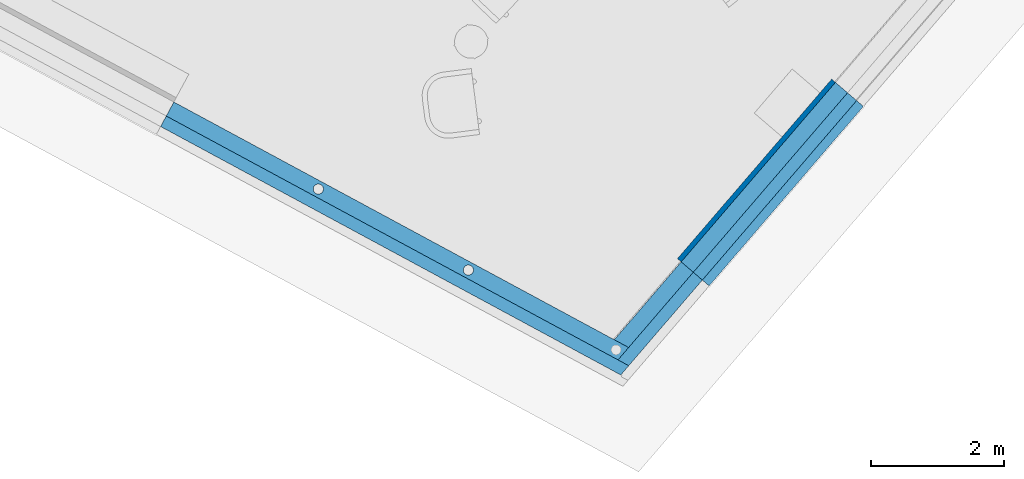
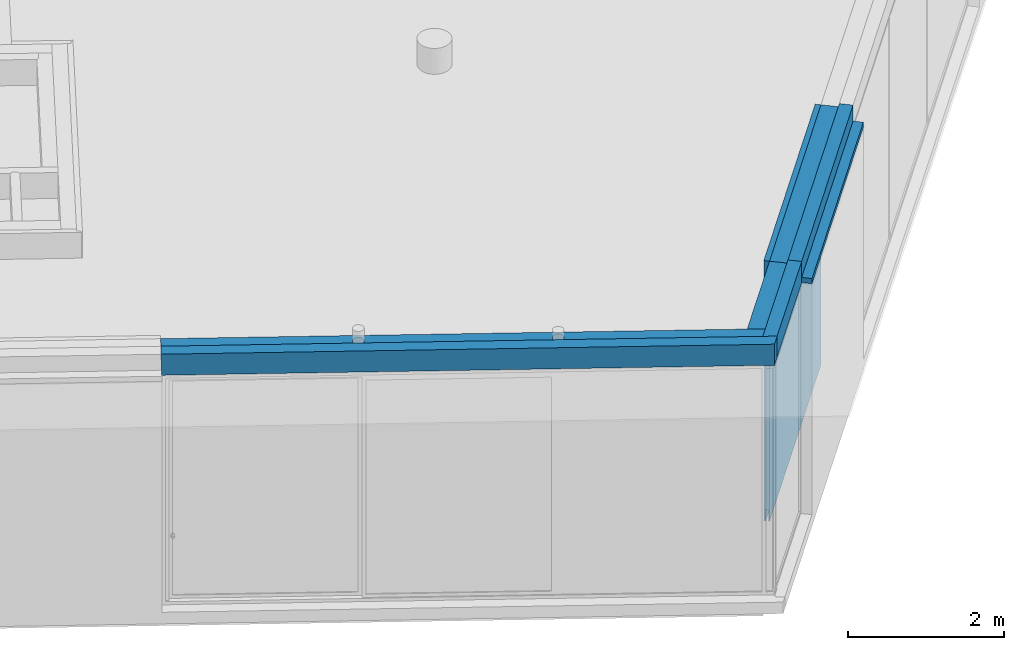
# One storey, part 8 of 52: 4 walls.
"""IFC2X3 building model written with IfcOpenShell, lengths in metres."""

import ifcopenshell
import ifcopenshell.guid

model = None  # the IFC model being written
_history = None  # IfcOwnerHistory: only IFC2X3 demands one
_inside = {}  # id of a spatial element -> (the spatial element, [elements in it])
_under = {}  # id of a project, library or spatial element -> (it, [spatial elements below it])
_declared = {}  # id of a project -> (the project, [libraries it declares])
_typed = {}  # id of a type object -> (the type object, [elements of that type])
_made_of = {}  # id of a material, layer set ... -> (it, [elements and type objects made of it])


def new_model(schema):
    """Start an empty IFC model of exactly this schema.

    Asked for "IFC4X3", IfcOpenShell would pick the latest addendum, in which some entities
    have other attributes; the version numbers below select the first issue.
    IFC2X3 requires an IfcOwnerHistory on every rooted entity: one is made here for all.
    """
    global model, _history
    if schema == "IFC4X3":
        model = ifcopenshell.file(schema_version=(4, 3, 0, 0))
    else:
        model = ifcopenshell.file(schema=schema)
    _inside.clear()
    _under.clear()
    _declared.clear()
    _typed.clear()
    _made_of.clear()
    _history = None
    if model.schema == "IFC2X3":
        org = make("IfcOrganization", Name="unknown")
        user = make(
            "IfcPersonAndOrganization",
            ThePerson=make("IfcPerson", FamilyName="unknown"),
            TheOrganization=org,
        )
        app = make(
            "IfcApplication",
            ApplicationDeveloper=org,
            Version="unknown",
            ApplicationFullName="unknown",
            ApplicationIdentifier="unknown",
        )
        _history = make(
            "IfcOwnerHistory",
            OwningUser=user,
            OwningApplication=app,
            ChangeAction="ADDED",
            CreationDate=0,
        )
    return model


def make(cls, **values):
    """One entity of the class cls with the attributes given. An attribute that is None is left unset."""
    return model.create_entity(
        cls, **{name: value for name, value in values.items() if value is not None}
    )


def entity(cls, *values):
    """Any entity or typed value of the class cls, its attributes in the order of the schema. None: left unset."""
    e = model.create_entity(cls)
    for i, value in enumerate(values):
        if value is not None:
            e[i] = value
    return e


def rooted(cls, **values):
    """An entity with a GlobalId (a new one), such as an element, a storey or a relation."""
    return make(cls, GlobalId=ifcopenshell.guid.new(), OwnerHistory=_history, **values)


def si_unit(unit_type, name, prefix=None):
    """IfcSIUnit, for example si_unit("LENGTHUNIT", "METRE", prefix="MILLI")."""
    return make("IfcSIUnit", UnitType=unit_type, Prefix=prefix, Name=name)


def converted_unit(unit_type, name, factor, base, dimensions=None, offset=None):
    """IfcConversionBasedUnit, such as the inch: factor (a typed value) times the base unit."""
    return make(
        "IfcConversionBasedUnit"
        if offset is None
        else "IfcConversionBasedUnitWithOffset",
        ConversionOffset=offset,
        Dimensions=None
        if dimensions is None
        else entity("IfcDimensionalExponents", *dimensions),
        UnitType=unit_type,
        Name=name,
        ConversionFactor=make(
            "IfcMeasureWithUnit", ValueComponent=factor, UnitComponent=base
        ),
    )


def derived_unit(unit_type, elements):
    """IfcDerivedUnit: a product of units, each with its exponent."""
    return make(
        "IfcDerivedUnit",
        Elements=[
            make("IfcDerivedUnitElement", Unit=unit, Exponent=power)
            for unit, power in elements
        ],
        UnitType=unit_type,
    )


def money_unit(currency):
    """IfcMonetaryUnit."""
    return make("IfcMonetaryUnit", Currency=currency)


def assignment(units):
    """IfcUnitAssignment: the units of a project."""
    return None if units is None else make("IfcUnitAssignment", Units=units)


def point(xyz):
    """IfcCartesianPoint."""
    return None if xyz is None else make("IfcCartesianPoint", Coordinates=xyz)


def direction(xyz):
    """IfcDirection."""
    return None if xyz is None else make("IfcDirection", DirectionRatios=xyz)


def frame(location, z_axis=None, x_axis=None):
    """IfcAxis2Placement3D, a coordinate frame: its origin and axes. An axis left out is left unset."""
    return make(
        "IfcAxis2Placement3D",
        Location=point(location),
        Axis=direction(z_axis),
        RefDirection=direction(x_axis),
    )


def origin_with_axes():
    """The frame at (0, 0, 0) with the z axis (0, 0, 1) and the x axis (1, 0, 0) written out."""
    return frame((0.0, 0.0, 0.0), z_axis=(0.0, 0.0, 1.0), x_axis=(1.0, 0.0, 0.0))


def place(relative_to, where):
    """IfcLocalPlacement: puts the frame where relative to a parent placement (None: the world)."""
    return make(
        "IfcLocalPlacement", PlacementRelTo=relative_to, RelativePlacement=where
    )


def context(
    kind, dimensions, precision=None, world=None, true_north=None, identifier=None
):
    """IfcGeometricRepresentationContext, for example the 3D "Model" context."""
    return make(
        "IfcGeometricRepresentationContext",
        ContextIdentifier=identifier,
        ContextType=kind,
        CoordinateSpaceDimension=dimensions,
        Precision=precision,
        WorldCoordinateSystem=world,
        TrueNorth=true_north,
    )


def subcontext(parent, identifier, kind, view, scale=None):
    """IfcGeometricRepresentationSubContext, for example "Body" below "Model"."""
    return make(
        "IfcGeometricRepresentationSubContext",
        ContextIdentifier=identifier,
        ContextType=kind,
        ParentContext=parent,
        TargetScale=scale,
        TargetView=view,
    )


def project(units=None, contexts=None):
    """IfcProject with its units and contexts."""
    return rooted(
        "IfcProject",
        Name="project",
        RepresentationContexts=contexts,
        UnitsInContext=assignment(units),
    )


def spatial(cls, under=None, at=None, **own):
    """A site, building, storey or space (cls), placed at a placement, below another one or the project."""
    s = rooted(cls, ObjectPlacement=at, **own)
    if under is not None:
        _under.setdefault(under.id(), (under, []))[1].append(s)
    return s


def faces_of(points, faces, orient=None, outer=None):
    """IfcFace entities. A face is a list of loops; a loop is a list of indices into points, from 0.

    orient and outer hold one flag for each loop. By default every Orientation is true, the
    first loop of a face is its IfcFaceOuterBound and the others are IfcFaceBound.
    """
    made = []
    for i, loops in enumerate(faces):
        bounds = []
        for j, loop in enumerate(loops):
            is_outer = j == 0 if outer is None else outer[i][j]
            bounds.append(
                make(
                    "IfcFaceOuterBound" if is_outer else "IfcFaceBound",
                    Bound=make("IfcPolyLoop", Polygon=[points[k] for k in loop]),
                    Orientation=True if orient is None else orient[i][j],
                )
            )
        made.append(make("IfcFace", Bounds=bounds))
    return made


def faceted_brep(points, faces, orient=None, outer=None, voids=None):
    """IfcFacetedBrep: a solid bounded by flat faces; with voids (closed shells), ...WithVoids."""
    shared = [point(p) for p in points]
    hull = make("IfcClosedShell", CfsFaces=faces_of(shared, faces, orient, outer))
    if voids is None:
        return make("IfcFacetedBrep", Outer=hull)
    return make(
        "IfcFacetedBrepWithVoids",
        Outer=hull,
        Voids=[
            make(cls, CfsFaces=faces_of(shared, fs, o, b)) for cls, fs, o, b in voids
        ],
    )


def shape(context_of_items, identifier, shape_type, items):
    """IfcShapeRepresentation: the items that make up one representation, for example the "Body"."""
    return make(
        "IfcShapeRepresentation",
        ContextOfItems=context_of_items,
        RepresentationIdentifier=identifier,
        RepresentationType=shape_type,
        Items=items,
    )


def material(Name=None, Category=None):
    """IfcMaterial."""
    return make("IfcMaterial", Name=Name, Category=Category)


def material_list(materials):
    """IfcMaterialList."""
    return make("IfcMaterialList", Materials=materials)


def made_of(thing, what):
    """Note that an element or type object is made of a material, layer set ...; save() writes the relation."""
    if what is not None:
        _made_of.setdefault(what.id(), (what, []))[1].append(thing)
    return thing


def type_object(cls, material=None, **own):
    """A type object (cls), such as IfcWallType, which elements share."""
    return made_of(rooted(cls, **own), material)


def element(
    cls,
    number,
    at=None,
    inside=None,
    cuts=None,
    type_object=None,
    material=None,
    context=None,
    identifier="Body",
    shape_type=None,
    held_by="IfcProductDefinitionShape",
    body=None,
    shapes=None,
    **own,
):
    """One element of the class cls, such as IfcWall. Its Tag is "e" and its number.

    at: its placement. inside: the storey or other place that contains it. cuts: it is an
    opening in that element (IfcRelVoidsElement). A single representation is given by context,
    identifier, shape_type and body (its items); several are given by shapes. held_by: the class
    of the entity that holds the representations. save() writes the other relations.
    """
    e = rooted(cls, Tag="e%d" % number, ObjectPlacement=at, **own)
    if body is not None:
        shapes = [shape(context, identifier, shape_type, body)]
    if shapes is not None:
        e.Representation = make(held_by, Representations=shapes)
    if inside is not None:
        _inside.setdefault(inside.id(), (inside, []))[1].append(e)
    if cuts is not None:
        rooted(
            "IfcRelVoidsElement", RelatingBuildingElement=cuts, RelatedOpeningElement=e
        )
    if type_object is not None:
        _typed.setdefault(type_object.id(), (type_object, []))[1].append(e)
    return made_of(e, material)


def aggregate(whole, parts):
    """IfcRelAggregates: a whole, such as a stair, and the parts it consists of."""
    return rooted("IfcRelAggregates", RelatingObject=whole, RelatedObjects=parts)


def save(model, path):
    """Write the relations noted so far, then the file.

    IfcRelAggregates (storeys below a building ...), IfcRelContainedInSpatialStructure (elements
    in a storey), IfcRelDefinesByType, IfcRelAssociatesMaterial and IfcRelDeclares: one each for
    every whole, place, type object, material and project.
    """
    for whole, parts in _under.values():
        aggregate(whole, parts)
    for where, things in _inside.values():
        rooted(
            "IfcRelContainedInSpatialStructure",
            RelatedElements=things,
            RelatingStructure=where,
        )
    for kind, things in _typed.values():
        rooted("IfcRelDefinesByType", RelatedObjects=things, RelatingType=kind)
    for what, things in _made_of.values():
        rooted("IfcRelAssociatesMaterial", RelatedObjects=things, RelatingMaterial=what)
    for by, libraries in _declared.values():
        rooted("IfcRelDeclares", RelatingContext=by, RelatedDefinitions=libraries)
    model.write(path)


model = new_model("IFC2X3")

# Units and contexts
model_context = context("Model", 3, precision=1e-05, world=origin_with_axes(), true_north=direction((0.0, 1.0)))
body_context = subcontext(model_context, "Body", "Model", "MODEL_VIEW")
ifc_project = project(units=[si_unit("LENGTHUNIT", "METRE"), si_unit("AREAUNIT", "SQUARE_METRE"), si_unit("VOLUMEUNIT", "CUBIC_METRE"), converted_unit("PLANEANGLEUNIT", "DEGREE", entity("IfcPlaneAngleMeasure", 0.0174532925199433), si_unit("PLANEANGLEUNIT", "RADIAN"), dimensions=[0, 0, 0, 0, 0, 0, 0]), money_unit("EUR"), converted_unit("TIMEUNIT", "Year", entity("IfcTimeMeasure", 31556926.0), si_unit("TIMEUNIT", "SECOND"), dimensions=[0, 0, 1, 0, 0, 0, 0]), si_unit("MASSUNIT", "GRAM", prefix="KILO"), si_unit("THERMODYNAMICTEMPERATUREUNIT", "DEGREE_CELSIUS"), si_unit("LUMINOUSINTENSITYUNIT", "LUMEN"), si_unit("ENERGYUNIT", "JOULE", prefix="MEGA"), derived_unit("THERMALCONDUCTANCEUNIT", [(si_unit("POWERUNIT", "WATT"), 1), (si_unit("LENGTHUNIT", "METRE"), -1), (si_unit("THERMODYNAMICTEMPERATUREUNIT", "KELVIN"), -1)]), derived_unit("SPECIFICHEATCAPACITYUNIT", [(si_unit("ENERGYUNIT", "JOULE"), 1), (si_unit("MASSUNIT", "GRAM", prefix="KILO"), -1), (si_unit("THERMODYNAMICTEMPERATUREUNIT", "KELVIN"), -1)]), derived_unit("MASSDENSITYUNIT", [(si_unit("MASSUNIT", "GRAM", prefix="KILO"), 1), (si_unit("VOLUMEUNIT", "CUBIC_METRE"), -1)])], contexts=[model_context])

# Site, building, storey
site_placement = place(None, frame((-3.949935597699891, 1.740105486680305, 0.0), z_axis=(0.0, 0.0, 1.0), x_axis=(0.8799804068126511, -0.475009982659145, 0.0)))
site = spatial("IfcSite", under=ifc_project, at=site_placement, Name="Gelände", CompositionType="ELEMENT")
building_placement = place(site_placement, origin_with_axes())
building = spatial("IfcBuilding", under=site, at=building_placement, Name="Gebäude", CompositionType="ELEMENT")
storey_placement = place(building_placement, origin_with_axes())
storey = spatial("IfcBuildingStorey", under=building, at=storey_placement, Name="Erdgeschoss", CompositionType="ELEMENT", Elevation=0.0)

# Walls
ifc_material_1 = material(Name="_SIWH - Beton, Stahlbeton")
ifc_material_2 = material(Name="_SIWH - Dämmung, weich Mineralwolle")
ifc_material_list_1 = material_list([ifc_material_1, ifc_material_2])
wall_type_1 = type_object("IfcWallType", Name="_SIWH - WA | Stb. 24+WD 18 | 42cm 420", PredefinedType="NOTDEFINED")
wall_1_placement = place(storey_placement, frame((19.13486084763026, 0.2249891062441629, 3.619999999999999), z_axis=(0.0, 0.0, 1.0), x_axis=(0.9999999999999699, -2.452875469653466e-07, 0.0)))
element("IfcWall", 1, at=wall_1_placement, inside=storey, type_object=wall_type_1, material=ifc_material_list_1, Name="A-Wand011", context=body_context, shape_type="Brep", body=[
    faceted_brep([(7.727015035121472, 0.0, 0.0), (0.0, 0.0, 0.0), (0.0, 0.2400000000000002, 0.0), (7.779432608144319, 0.2400000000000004, 0.0), (7.691878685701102, 0.07534120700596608, 0.0), (7.702673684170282, 0.09652759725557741, 0.0), (7.7063933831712, 0.12001288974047, 0.0), (7.702673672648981, 0.143498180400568, 0.0), (7.691878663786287, 0.1646845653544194, 0.0), (7.675065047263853, 0.1814981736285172, 0.0), (7.653878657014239, 0.1922931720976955, 0.0), (7.630393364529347, 0.1960128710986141, 0.0), (7.606908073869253, 0.1922931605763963, 0.0), (7.585721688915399, 0.181498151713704, 0.0), (7.5689080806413, 0.1646845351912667, 0.0), (7.55811308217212, 0.1434981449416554, 0.0), (7.554393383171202, 0.1200128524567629, 0.0), (7.558113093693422, 0.09652756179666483, 0.0), (7.568908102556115, 0.0753411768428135, 0.0), (7.585721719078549, 0.05852756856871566, 0.0), (7.606908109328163, 0.04773257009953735, 0.0), (7.630393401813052, 0.04401287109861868, 0.0), (7.65387869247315, 0.04773258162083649, 0.0), (7.675065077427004, 0.05852759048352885, 0.0), (2.598152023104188, 0.07533995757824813, 0.0), (2.608947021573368, 0.09652634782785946, 0.0), (2.612666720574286, 0.120011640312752, 0.0), (2.608947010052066, 0.14349693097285, 0.0), (2.598152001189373, 0.1646833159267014, 0.0), (2.581338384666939, 0.1814969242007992, 0.0), (2.560151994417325, 0.1922919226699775, 0.0), (2.536666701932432, 0.1960116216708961, 0.0), (2.513181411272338, 0.1922919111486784, 0.0), (2.491995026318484, 0.181496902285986, 0.0), (2.475181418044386, 0.1646832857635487, 0.0), (2.464386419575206, 0.1434968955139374, 0.0), (2.460666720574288, 0.1200116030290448, 0.0), (2.464386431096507, 0.09652631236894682, 0.0), (2.475181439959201, 0.07533992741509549, 0.0), (2.491995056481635, 0.05852631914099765, 0.0), (2.513181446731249, 0.0477313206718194, 0.0), (2.536666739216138, 0.04401162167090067, 0.0), (2.560152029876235, 0.04773133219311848, 0.0), (2.581338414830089, 0.05852634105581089, 0.0), (5.164818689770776, 0.07534058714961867, 0.0), (5.175613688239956, 0.09652697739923, 0.0), (5.179333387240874, 0.1200122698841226, 0.0), (5.175613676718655, 0.1434975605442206, 0.0), (5.164818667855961, 0.164683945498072, 0.0), (5.148005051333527, 0.1814975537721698, 0.0), (5.126818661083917, 0.1922925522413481, 0.0), (5.103333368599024, 0.1960122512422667, 0.0), (5.079848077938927, 0.1922925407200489, 0.0), (5.058661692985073, 0.1814975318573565, 0.0), (5.041848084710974, 0.1646839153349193, 0.0), (5.031053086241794, 0.1434975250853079, 0.0), (5.027333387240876, 0.1200122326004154, 0.0), (5.031053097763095, 0.09652694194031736, 0.0), (5.041848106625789, 0.07534055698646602, 0.0), (5.058661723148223, 0.05852694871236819, 0.0), (5.079848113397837, 0.04773195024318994, 0.0), (5.103333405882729, 0.04401225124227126, 0.0), (5.126818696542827, 0.04773196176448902, 0.0), (5.148005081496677, 0.05852697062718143, 0.0), (7.727010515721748, 9.76583452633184e-07, 0.2800000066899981), (0.0, 0.0, 0.2800000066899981), (0.0, 0.240000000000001, 0.2800000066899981), (7.779428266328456, 0.240000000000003, 0.2800000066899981), (7.691878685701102, 0.07534120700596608, 0.1300000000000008), (7.702673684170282, 0.09652759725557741, 0.1300000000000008), (7.7063933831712, 0.12001288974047, 0.1300000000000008), (7.702673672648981, 0.143498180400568, 0.1300000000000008), (7.691878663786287, 0.1646845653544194, 0.1300000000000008), (7.675065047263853, 0.1814981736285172, 0.1300000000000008), (7.653878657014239, 0.1922931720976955, 0.1300000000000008), (7.630393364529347, 0.1960128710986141, 0.1300000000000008), (7.606908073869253, 0.1922931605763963, 0.1300000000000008), (7.585721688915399, 0.181498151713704, 0.1300000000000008), (7.5689080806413, 0.1646845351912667, 0.1300000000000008), (7.55811308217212, 0.1434981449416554, 0.1300000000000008), (7.554393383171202, 0.1200128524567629, 0.1300000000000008), (7.558113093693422, 0.09652756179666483, 0.1300000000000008), (7.568908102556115, 0.0753411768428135, 0.1300000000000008), (7.585721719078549, 0.05852756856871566, 0.1300000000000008), (7.606908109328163, 0.04773257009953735, 0.1300000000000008), (7.630393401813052, 0.04401287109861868, 0.1300000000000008), (7.65387869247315, 0.04773258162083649, 0.1300000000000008), (7.675065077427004, 0.05852759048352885, 0.1300000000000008), (2.598152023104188, 0.07533995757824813, 0.2800000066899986), (2.608947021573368, 0.09652634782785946, 0.2800000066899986), (2.612666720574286, 0.120011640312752, 0.2800000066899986), (2.608947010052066, 0.14349693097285, 0.2800000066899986), (2.598152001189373, 0.1646833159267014, 0.2800000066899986), (2.581338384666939, 0.1814969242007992, 0.2800000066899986), (2.560151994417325, 0.1922919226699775, 0.2800000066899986), (2.536666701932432, 0.1960116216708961, 0.2800000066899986), (2.513181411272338, 0.1922919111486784, 0.2800000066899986), (2.491995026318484, 0.181496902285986, 0.2800000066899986), (2.475181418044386, 0.1646832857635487, 0.2800000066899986), (2.464386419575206, 0.1434968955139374, 0.2800000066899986), (2.460666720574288, 0.1200116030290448, 0.2800000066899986), (2.464386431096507, 0.09652631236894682, 0.2800000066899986), (2.475181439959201, 0.07533992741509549, 0.2800000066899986), (2.491995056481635, 0.05852631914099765, 0.2800000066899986), (2.513181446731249, 0.0477313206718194, 0.2800000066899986), (2.536666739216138, 0.04401162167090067, 0.2800000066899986), (2.560152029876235, 0.04773133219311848, 0.2800000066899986), (2.581338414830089, 0.05852634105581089, 0.2800000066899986), (5.164818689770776, 0.07534058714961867, 0.2800000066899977), (5.175613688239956, 0.09652697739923, 0.2800000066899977), (5.179333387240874, 0.1200122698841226, 0.2800000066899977), (5.175613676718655, 0.1434975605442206, 0.2800000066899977), (5.164818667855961, 0.164683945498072, 0.2800000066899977), (5.148005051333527, 0.1814975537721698, 0.2800000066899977), (5.126818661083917, 0.1922925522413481, 0.2800000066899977), (5.103333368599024, 0.1960122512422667, 0.2800000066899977), (5.079848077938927, 0.1922925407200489, 0.2800000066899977), (5.058661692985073, 0.1814975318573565, 0.2800000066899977), (5.041848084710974, 0.1646839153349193, 0.2800000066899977), (5.031053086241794, 0.1434975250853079, 0.2800000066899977), (5.027333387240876, 0.1200122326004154, 0.2800000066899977), (5.031053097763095, 0.09652694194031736, 0.2800000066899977), (5.041848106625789, 0.07534055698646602, 0.2800000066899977), (5.058661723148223, 0.05852694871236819, 0.2800000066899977), (5.079848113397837, 0.04773195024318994, 0.2800000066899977), (5.103333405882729, 0.04401225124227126, 0.2800000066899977), (5.126818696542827, 0.04773196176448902, 0.2800000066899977), (5.148005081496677, 0.05852697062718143, 0.2800000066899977)], [[[0, 1, 2, 3], [4, 5, 6, 7, 8, 9, 10, 11, 12, 13, 14, 15, 16, 17, 18, 19, 20, 21, 22, 23], [24, 25, 26, 27, 28, 29, 30, 31, 32, 33, 34, 35, 36, 37, 38, 39, 40, 41, 42, 43], [44, 45, 46, 47, 48, 49, 50, 51, 52, 53, 54, 55, 56, 57, 58, 59, 60, 61, 62, 63]], [[64, 65, 1, 0]], [[66, 2, 1, 65]], [[3, 2, 66, 67]], [[67, 64, 0, 3]], [[5, 4, 68, 69]], [[6, 5, 69, 70]], [[7, 6, 70, 71]], [[8, 7, 71, 72]], [[9, 8, 72, 73]], [[10, 9, 73, 74]], [[11, 10, 74, 75]], [[12, 11, 75, 76]], [[13, 12, 76, 77]], [[14, 13, 77, 78]], [[15, 14, 78, 79]], [[16, 15, 79, 80]], [[17, 16, 80, 81]], [[18, 17, 81, 82]], [[19, 18, 82, 83]], [[20, 19, 83, 84]], [[21, 20, 84, 85]], [[22, 21, 85, 86]], [[23, 22, 86, 87]], [[4, 23, 87, 68]], [[88, 89, 25, 24]], [[89, 90, 26, 25]], [[90, 91, 27, 26]], [[91, 92, 28, 27]], [[92, 93, 29, 28]], [[93, 94, 30, 29]], [[94, 95, 31, 30]], [[95, 96, 32, 31]], [[96, 97, 33, 32]], [[97, 98, 34, 33]], [[98, 99, 35, 34]], [[99, 100, 36, 35]], [[100, 101, 37, 36]], [[101, 102, 38, 37]], [[102, 103, 39, 38]], [[103, 104, 40, 39]], [[104, 105, 41, 40]], [[105, 106, 42, 41]], [[106, 107, 43, 42]], [[107, 88, 24, 43]], [[108, 109, 45, 44]], [[109, 110, 46, 45]], [[110, 111, 47, 46]], [[111, 112, 48, 47]], [[112, 113, 49, 48]], [[113, 114, 50, 49]], [[114, 115, 51, 50]], [[115, 116, 52, 51]], [[116, 117, 53, 52]], [[117, 118, 54, 53]], [[118, 119, 55, 54]], [[119, 120, 56, 55]], [[120, 121, 57, 56]], [[121, 122, 58, 57]], [[122, 123, 59, 58]], [[123, 124, 60, 59]], [[124, 125, 61, 60]], [[125, 126, 62, 61]], [[126, 127, 63, 62]], [[127, 108, 44, 63]], [[67, 66, 65, 64], [92, 91, 90, 89, 88, 107, 106, 105, 104, 103, 102, 101, 100, 99, 98, 97, 96, 95, 94, 93], [112, 111, 110, 109, 108, 127, 126, 125, 124, 123, 122, 121, 120, 119, 118, 117, 116, 115, 114, 113]], [[80, 79, 78, 77, 76, 75, 74, 73, 72, 71, 70, 69, 68, 87, 86, 85, 84, 83, 82, 81]]]),
    faceted_brep([(7.911258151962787, 0.0, 0.0), (7.871944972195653, -0.1799999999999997, 0.0), (0.0, -0.18, 0.0), (0.0, 0.0, 0.0), (7.911258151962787, 0.0, 0.330000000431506), (7.871944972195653, -0.1799999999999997, 0.330000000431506), (0.0, -0.18, 0.330000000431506), (0.0, 0.0, 0.330000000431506)], [[[0, 1, 2, 3]], [[1, 0, 4, 5]], [[1, 5, 6, 2]], [[7, 3, 2, 6]], [[4, 0, 3, 7]], [[5, 4, 7, 6]]]),
])
wall_2_placement = place(storey_placement, frame((26.86187588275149, 0.224987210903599, 3.619999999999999), z_axis=(0.0, 0.0, 1.0), x_axis=(0.2133768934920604, 0.9769699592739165, 0.0)))
element("IfcWall", 2, at=wall_2_placement, inside=storey, type_object=wall_type_1, material=ifc_material_list_1, Name="A-Wand012", context=body_context, shape_type="Brep", body=[
    faceted_brep([(1.738769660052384, 1.920773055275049e-06, 0.2800000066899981), (1.738769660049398, 0.0, 0.0), (1.738769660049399, 0.240000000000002, 0.0), (1.738769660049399, 0.240000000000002, 0.2800000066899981), (0.2456574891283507, 4.241822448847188e-06, 0.2800000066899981), (0.2456574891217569, 0.0, 0.0), (0.1932399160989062, 0.2399999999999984, 0.0), (0.1932399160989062, 0.2399999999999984, 0.2800000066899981), (0.2456505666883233, 3.168687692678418e-05, 0.2800000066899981)], [[[0, 1, 2, 3]], [[0, 4, 5, 1]], [[6, 2, 1, 5]], [[7, 3, 2, 6]], [[8, 4, 0, 3, 7]], [[4, 8, 7, 6, 5]]]),
    faceted_brep([(0.0, 0.0, 0.0), (1.738769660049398, 0.0, 0.0), (1.738769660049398, -0.1799999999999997, 0.0), (0.039313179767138, -0.1799999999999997, 0.0), (0.0, 0.0, 0.330000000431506), (1.738769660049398, 0.0, 0.330000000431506), (1.738769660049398, -0.1799999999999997, 0.330000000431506), (0.03931317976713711, -0.1799999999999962, 0.330000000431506)], [[[0, 1, 2, 3]], [[4, 5, 1, 0]], [[2, 1, 5, 6]], [[3, 2, 6, 7]], [[4, 0, 3, 7]], [[7, 6, 5, 4]]]),
])
ifc_material_3 = material(Name="_SIWH - Gipskarton")
ifc_material_4 = material(Name="_SIWH - Installationswand, raumhoch")
ifc_material_list_2 = material_list([ifc_material_3, ifc_material_3, ifc_material_4])
wall_type_2 = type_object("IfcWallType", Name="_SIWH - WI | Vorsatz-GK 2-lagig | 7,5cm  75", PredefinedType="NOTDEFINED")
wall_3_placement = place(storey_placement, frame((26.99841634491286, 1.974923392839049, -0.1799999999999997), z_axis=(0.0, 0.0, 1.0), x_axis=(0.2133768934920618, 0.9769699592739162, 0.0)))
element("IfcWall", 3, at=wall_3_placement, inside=storey, type_object=wall_type_2, material=ifc_material_list_2, Name="L-Wand015", context=body_context, shape_type="Brep", body=[
    faceted_brep([(3.562109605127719, 0.0625, 4.080000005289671), (3.562109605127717, 0.07499999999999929, 4.080000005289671), (0.0, 0.07500000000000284, 4.080000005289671), (0.0, 0.0625, 4.080000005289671), (3.562109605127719, 0.0625, 0.0), (3.562109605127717, 0.07499999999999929, 0.0), (0.0, 0.07500000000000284, 0.0), (0.0, 0.0625, 0.0)], [[[0, 1, 2, 3]], [[0, 4, 5, 1]], [[1, 5, 6, 2]], [[3, 2, 6, 7]], [[4, 0, 3, 7]], [[5, 4, 7, 6]]]),
    faceted_brep([(3.562109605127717, 0.05000000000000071, 4.080000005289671), (3.562109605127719, 0.0625, 4.080000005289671), (0.0, 0.0625, 4.080000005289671), (0.0, 0.05000000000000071, 4.080000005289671), (3.562109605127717, 0.05000000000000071, 0.0), (3.562109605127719, 0.0625, 0.0), (0.0, 0.0625, 0.0), (0.0, 0.05000000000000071, 0.0)], [[[0, 1, 2, 3]], [[0, 4, 5, 1]], [[1, 5, 6, 2]], [[3, 2, 6, 7]], [[4, 0, 3, 7]], [[5, 4, 7, 6]]]),
    faceted_brep([(3.562109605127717, 0.05000000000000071, 3.780000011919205), (3.562109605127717, 0.01499629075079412, 3.780000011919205), (3.562109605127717, 0.01499629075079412, 3.795000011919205), (3.562109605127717, 0.05000000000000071, 3.795000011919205), (3.562109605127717, 0.05000000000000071, 4.080000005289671), (3.562109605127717, 0.0, 4.080000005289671), (3.562109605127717, 0.0, 0.0), (3.562109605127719, 0.01499633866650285, 0.0), (3.562109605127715, 0.01499633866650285, 0.1799999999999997), (3.562109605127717, 0.05000000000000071, 0.1799999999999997), (0.0, 0.05000000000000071, 3.780000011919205), (0.0, 0.01500178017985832, 3.780000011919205), (0.0, 0.01500178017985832, 3.795000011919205), (0.0, 0.05000000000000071, 3.795000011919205), (0.0, 0.05000000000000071, 4.080000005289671), (0.0, 0.0, 4.080000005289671), (0.0, 0.0, 0.0), (0.0, 0.01500184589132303, 0.0), (0.0, 0.01500184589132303, 0.1799999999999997), (0.0, 0.05000000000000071, 0.1799999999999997)], [[[0, 1, 2, 3, 4, 5, 6, 7, 8, 9]], [[1, 0, 10, 11]], [[2, 1, 11, 12]], [[3, 2, 12, 13]], [[3, 13, 14, 4]], [[15, 5, 4, 14]], [[16, 6, 5, 15]], [[17, 7, 6, 16]], [[8, 7, 17, 18]], [[9, 8, 18, 19]], [[10, 0, 9, 19]], [[11, 10, 19, 18, 17, 16, 15, 14, 13, 12]]]),
])
ifc_material_5 = material(Name="_SIWH - MW Vormauerziegel")
ifc_material_6 = material(Name="_SIWH - Luftschicht vertikal")
ifc_material_list_3 = material_list([ifc_material_5, ifc_material_6, ifc_material_2, ifc_material_1])
wall_type_3 = type_object("IfcWallType", Name="_SIWH - Sturz Außenwand EG 555 x 330", PredefinedType="NOTDEFINED")
wall_4_placement = place(storey_placement, frame((27.99296098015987, 5.403786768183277, 3.619999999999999), z_axis=(0.0, 0.0, 1.0), x_axis=(-0.2133768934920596, -0.9769699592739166, 0.0)))
element("IfcWall", 4, at=wall_4_placement, inside=storey, type_object=wall_type_3, material=ifc_material_list_3, Name="A-Wand013", context=body_context, shape_type="Brep", body=[
    faceted_brep([(3.562109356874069, 0.3150000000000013, 0.08000000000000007), (3.562109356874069, 0.3150000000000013, 0.0), (0.0, 0.3149999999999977, 0.0), (0.0, 0.3149999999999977, 0.08000000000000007), (3.562109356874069, 0.1999999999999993, 0.08000000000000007), (3.562109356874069, 0.1999999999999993, 0.0), (0.0, 0.1999999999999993, 0.0), (0.0, 0.1999999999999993, 0.08000000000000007)], [[[0, 1, 2, 3]], [[0, 4, 5, 1]], [[1, 5, 6, 2]], [[3, 2, 6, 7]], [[4, 0, 3, 7]], [[5, 4, 7, 6]]]),
    faceted_brep([(3.562109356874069, 0.1800000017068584, 0.08000000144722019), (3.562109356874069, 0.2000000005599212, 0.07999999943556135), (0.0, 0.2000000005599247, 0.07999999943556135), (0.0, 0.1800000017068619, 0.08000000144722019), (3.562109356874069, 0.1800000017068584, 0.0), (3.562109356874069, 0.2000000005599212, 0.0), (0.0, 0.2000000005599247, 0.0), (0.0, 0.1800000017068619, 0.0)], [[[0, 1, 2, 3]], [[0, 4, 5, 1]], [[1, 5, 6, 2]], [[3, 2, 6, 7]], [[4, 0, 3, 7]], [[5, 4, 7, 6]]]),
    faceted_brep([(0.0, 0.1800000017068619, 0.08000000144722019), (3.562109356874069, 0.1800000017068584, 0.08000000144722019), (3.562109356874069, 0.1799999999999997, 0.0), (0.0, 0.1799999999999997, 0.0), (0.0, 0.1799999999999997, 0.3300000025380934), (3.562109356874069, 0.1799999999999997, 0.3300000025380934), (3.562109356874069, 3.224478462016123e-10, 0.3300000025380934), (3.562109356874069, 3.224478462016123e-10, 0.0), (0.0, 3.224478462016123e-10, 0.0), (0.0, 3.224478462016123e-10, 0.3300000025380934)], [[[0, 1, 2, 3]], [[4, 5, 1, 0]], [[2, 1, 5, 6, 7]], [[3, 2, 7, 8]], [[4, 0, 3, 8, 9]], [[9, 6, 5, 4]], [[8, 7, 6, 9]]]),
    faceted_brep([(0.0, 3.616541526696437e-06, 0.2800000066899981), (0.0, 0.0, 0.0), (0.0, -0.2400000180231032, 0.0), (0.0, -0.2400000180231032, 0.2800000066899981), (3.562109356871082, -1.920773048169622e-06, 0.2800000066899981), (3.562109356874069, 0.0, 0.0), (3.562109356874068, -0.2400000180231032, 0.0), (3.562109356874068, -0.2400000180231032, 0.2800000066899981)], [[[0, 1, 2, 3]], [[0, 4, 5, 1]], [[1, 5, 6, 2]], [[7, 3, 2, 6]], [[4, 0, 3, 7]], [[4, 7, 6, 5]]]),
])

save(model, "model.ifc")
